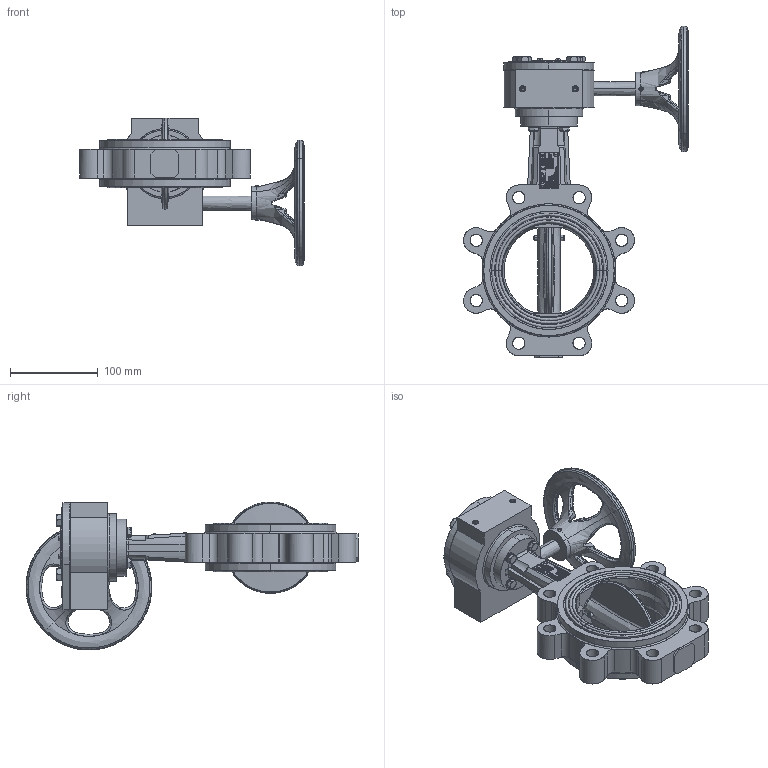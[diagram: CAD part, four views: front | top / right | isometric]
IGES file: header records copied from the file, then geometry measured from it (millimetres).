
Start section: SolidWorks IGES file using analytic representation for surfaces
Global section: file name: H:\BE FABRICATION\BE SERIE\VP\VP SERIE\F072 VPG\plan 3D\VPG-08\LUG\DN100\VPG464X-08XX0100.igs; native system: SolidWorks 2020; preprocessor: SolidWorks 2020; author: k.gigout; date: 220630.100930; units: millimetre
Bounding box: 257.1 x 379.43 x 169.08 mm (x, y, z)
Surface area: 252959.8 mm2 (no closed solid volume)
Topology: 0 solids, 0 shells, 949 faces, 21878 edges, 21866 vertices
Faces by surface type: bspline 675, revolution 274
